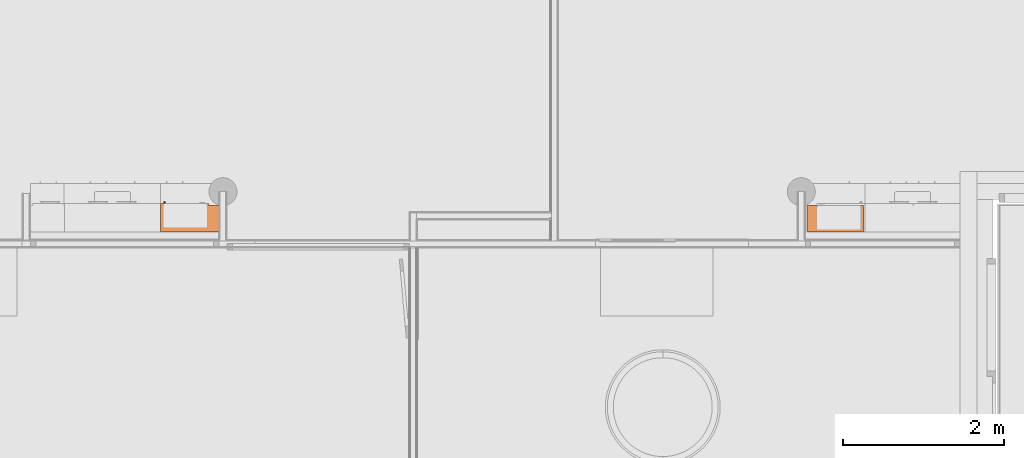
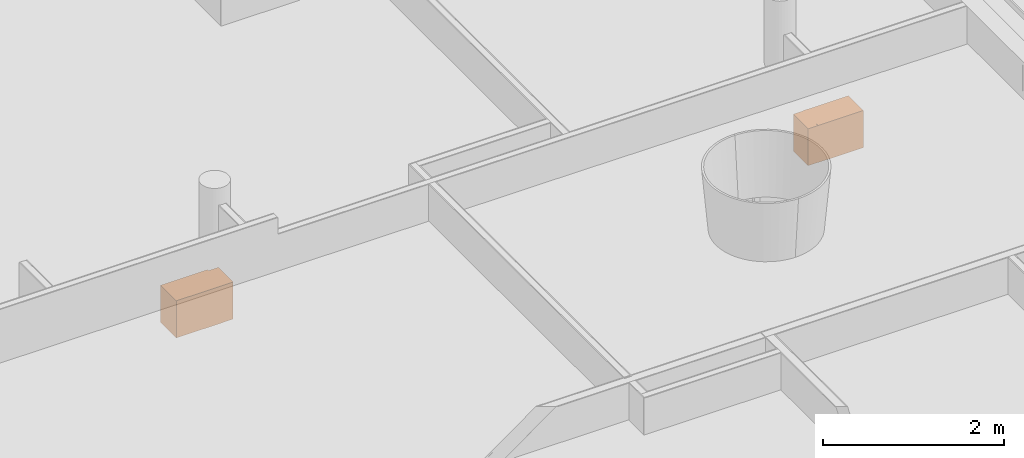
# One storey, part 166 of 167: 2 proxies.
"""IFC2X3 building model written with IfcOpenShell, lengths in millimetres."""

import ifcopenshell
import ifcopenshell.guid

model = None  # the IFC model being written
_history = None  # IfcOwnerHistory: only IFC2X3 demands one
_inside = {}  # id of a spatial element -> (the spatial element, [elements in it])
_under = {}  # id of a project, library or spatial element -> (it, [spatial elements below it])
_declared = {}  # id of a project -> (the project, [libraries it declares])
_typed = {}  # id of a type object -> (the type object, [elements of that type])
_made_of = {}  # id of a material, layer set ... -> (it, [elements and type objects made of it])


def new_model(schema):
    """Start an empty IFC model of exactly this schema.

    Asked for "IFC4X3", IfcOpenShell would pick the latest addendum, in which some entities
    have other attributes; the version numbers below select the first issue.
    IFC2X3 requires an IfcOwnerHistory on every rooted entity: one is made here for all.
    """
    global model, _history
    if schema == "IFC4X3":
        model = ifcopenshell.file(schema_version=(4, 3, 0, 0))
    else:
        model = ifcopenshell.file(schema=schema)
    _inside.clear()
    _under.clear()
    _declared.clear()
    _typed.clear()
    _made_of.clear()
    _history = None
    if model.schema == "IFC2X3":
        org = make("IfcOrganization", Name="unknown")
        user = make(
            "IfcPersonAndOrganization",
            ThePerson=make("IfcPerson", FamilyName="unknown"),
            TheOrganization=org,
        )
        app = make(
            "IfcApplication",
            ApplicationDeveloper=org,
            Version="unknown",
            ApplicationFullName="unknown",
            ApplicationIdentifier="unknown",
        )
        _history = make(
            "IfcOwnerHistory",
            OwningUser=user,
            OwningApplication=app,
            ChangeAction="ADDED",
            CreationDate=0,
        )
    return model


def make(cls, **values):
    """One entity of the class cls with the attributes given. An attribute that is None is left unset."""
    return model.create_entity(
        cls, **{name: value for name, value in values.items() if value is not None}
    )


def entity(cls, *values):
    """Any entity or typed value of the class cls, its attributes in the order of the schema. None: left unset."""
    e = model.create_entity(cls)
    for i, value in enumerate(values):
        if value is not None:
            e[i] = value
    return e


def rooted(cls, **values):
    """An entity with a GlobalId (a new one), such as an element, a storey or a relation."""
    return make(cls, GlobalId=ifcopenshell.guid.new(), OwnerHistory=_history, **values)


def si_unit(unit_type, name, prefix=None):
    """IfcSIUnit, for example si_unit("LENGTHUNIT", "METRE", prefix="MILLI")."""
    return make("IfcSIUnit", UnitType=unit_type, Prefix=prefix, Name=name)


def converted_unit(unit_type, name, factor, base, dimensions=None, offset=None):
    """IfcConversionBasedUnit, such as the inch: factor (a typed value) times the base unit."""
    return make(
        "IfcConversionBasedUnit"
        if offset is None
        else "IfcConversionBasedUnitWithOffset",
        ConversionOffset=offset,
        Dimensions=None
        if dimensions is None
        else entity("IfcDimensionalExponents", *dimensions),
        UnitType=unit_type,
        Name=name,
        ConversionFactor=make(
            "IfcMeasureWithUnit", ValueComponent=factor, UnitComponent=base
        ),
    )


def derived_unit(unit_type, elements):
    """IfcDerivedUnit: a product of units, each with its exponent."""
    return make(
        "IfcDerivedUnit",
        Elements=[
            make("IfcDerivedUnitElement", Unit=unit, Exponent=power)
            for unit, power in elements
        ],
        UnitType=unit_type,
    )


def money_unit(currency):
    """IfcMonetaryUnit."""
    return make("IfcMonetaryUnit", Currency=currency)


def assignment(units):
    """IfcUnitAssignment: the units of a project."""
    return None if units is None else make("IfcUnitAssignment", Units=units)


def point(xyz):
    """IfcCartesianPoint."""
    return None if xyz is None else make("IfcCartesianPoint", Coordinates=xyz)


def direction(xyz):
    """IfcDirection."""
    return None if xyz is None else make("IfcDirection", DirectionRatios=xyz)


def frame(location, z_axis=None, x_axis=None):
    """IfcAxis2Placement3D, a coordinate frame: its origin and axes. An axis left out is left unset."""
    return make(
        "IfcAxis2Placement3D",
        Location=point(location),
        Axis=direction(z_axis),
        RefDirection=direction(x_axis),
    )


def origin_with_axes():
    """The frame at (0, 0, 0) with the z axis (0, 0, 1) and the x axis (1, 0, 0) written out."""
    return frame((0.0, 0.0, 0.0), z_axis=(0.0, 0.0, 1.0), x_axis=(1.0, 0.0, 0.0))


def place(relative_to, where):
    """IfcLocalPlacement: puts the frame where relative to a parent placement (None: the world)."""
    return make(
        "IfcLocalPlacement", PlacementRelTo=relative_to, RelativePlacement=where
    )


def context(
    kind, dimensions, precision=None, world=None, true_north=None, identifier=None
):
    """IfcGeometricRepresentationContext, for example the 3D "Model" context."""
    return make(
        "IfcGeometricRepresentationContext",
        ContextIdentifier=identifier,
        ContextType=kind,
        CoordinateSpaceDimension=dimensions,
        Precision=precision,
        WorldCoordinateSystem=world,
        TrueNorth=true_north,
    )


def subcontext(parent, identifier, kind, view, scale=None):
    """IfcGeometricRepresentationSubContext, for example "Body" below "Model"."""
    return make(
        "IfcGeometricRepresentationSubContext",
        ContextIdentifier=identifier,
        ContextType=kind,
        ParentContext=parent,
        TargetScale=scale,
        TargetView=view,
    )


def project(units=None, contexts=None):
    """IfcProject with its units and contexts."""
    return rooted(
        "IfcProject",
        Name="project",
        RepresentationContexts=contexts,
        UnitsInContext=assignment(units),
    )


def spatial(cls, under=None, at=None, **own):
    """A site, building, storey or space (cls), placed at a placement, below another one or the project."""
    s = rooted(cls, ObjectPlacement=at, **own)
    if under is not None:
        _under.setdefault(under.id(), (under, []))[1].append(s)
    return s


def faces_of(points, faces, orient=None, outer=None):
    """IfcFace entities. A face is a list of loops; a loop is a list of indices into points, from 0.

    orient and outer hold one flag for each loop. By default every Orientation is true, the
    first loop of a face is its IfcFaceOuterBound and the others are IfcFaceBound.
    """
    made = []
    for i, loops in enumerate(faces):
        bounds = []
        for j, loop in enumerate(loops):
            is_outer = j == 0 if outer is None else outer[i][j]
            bounds.append(
                make(
                    "IfcFaceOuterBound" if is_outer else "IfcFaceBound",
                    Bound=make("IfcPolyLoop", Polygon=[points[k] for k in loop]),
                    Orientation=True if orient is None else orient[i][j],
                )
            )
        made.append(make("IfcFace", Bounds=bounds))
    return made


def faceted_brep(points, faces, orient=None, outer=None, voids=None):
    """IfcFacetedBrep: a solid bounded by flat faces; with voids (closed shells), ...WithVoids."""
    shared = [point(p) for p in points]
    hull = make("IfcClosedShell", CfsFaces=faces_of(shared, faces, orient, outer))
    if voids is None:
        return make("IfcFacetedBrep", Outer=hull)
    return make(
        "IfcFacetedBrepWithVoids",
        Outer=hull,
        Voids=[
            make(cls, CfsFaces=faces_of(shared, fs, o, b)) for cls, fs, o, b in voids
        ],
    )


def shape(context_of_items, identifier, shape_type, items):
    """IfcShapeRepresentation: the items that make up one representation, for example the "Body"."""
    return make(
        "IfcShapeRepresentation",
        ContextOfItems=context_of_items,
        RepresentationIdentifier=identifier,
        RepresentationType=shape_type,
        Items=items,
    )


def made_of(thing, what):
    """Note that an element or type object is made of a material, layer set ...; save() writes the relation."""
    if what is not None:
        _made_of.setdefault(what.id(), (what, []))[1].append(thing)
    return thing


def type_object(cls, material=None, **own):
    """A type object (cls), such as IfcWallType, which elements share."""
    return made_of(rooted(cls, **own), material)


def element(
    cls,
    number,
    at=None,
    inside=None,
    cuts=None,
    type_object=None,
    material=None,
    context=None,
    identifier="Body",
    shape_type=None,
    held_by="IfcProductDefinitionShape",
    body=None,
    shapes=None,
    **own,
):
    """One element of the class cls, such as IfcWall. Its Tag is "e" and its number.

    at: its placement. inside: the storey or other place that contains it. cuts: it is an
    opening in that element (IfcRelVoidsElement). A single representation is given by context,
    identifier, shape_type and body (its items); several are given by shapes. held_by: the class
    of the entity that holds the representations. save() writes the other relations.
    """
    e = rooted(cls, Tag="e%d" % number, ObjectPlacement=at, **own)
    if body is not None:
        shapes = [shape(context, identifier, shape_type, body)]
    if shapes is not None:
        e.Representation = make(held_by, Representations=shapes)
    if inside is not None:
        _inside.setdefault(inside.id(), (inside, []))[1].append(e)
    if cuts is not None:
        rooted(
            "IfcRelVoidsElement", RelatingBuildingElement=cuts, RelatedOpeningElement=e
        )
    if type_object is not None:
        _typed.setdefault(type_object.id(), (type_object, []))[1].append(e)
    return made_of(e, material)


def aggregate(whole, parts):
    """IfcRelAggregates: a whole, such as a stair, and the parts it consists of."""
    return rooted("IfcRelAggregates", RelatingObject=whole, RelatedObjects=parts)


def save(model, path):
    """Write the relations noted so far, then the file.

    IfcRelAggregates (storeys below a building ...), IfcRelContainedInSpatialStructure (elements
    in a storey), IfcRelDefinesByType, IfcRelAssociatesMaterial and IfcRelDeclares: one each for
    every whole, place, type object, material and project.
    """
    for whole, parts in _under.values():
        aggregate(whole, parts)
    for where, things in _inside.values():
        rooted(
            "IfcRelContainedInSpatialStructure",
            RelatedElements=things,
            RelatingStructure=where,
        )
    for kind, things in _typed.values():
        rooted("IfcRelDefinesByType", RelatedObjects=things, RelatingType=kind)
    for what, things in _made_of.values():
        rooted("IfcRelAssociatesMaterial", RelatedObjects=things, RelatingMaterial=what)
    for by, libraries in _declared.values():
        rooted("IfcRelDeclares", RelatingContext=by, RelatedDefinitions=libraries)
    model.write(path)


model = new_model("IFC2X3")

# Units and contexts
model_context = context("Model", 3, precision=0.01, world=origin_with_axes(), true_north=direction((0.0, 1.0)))
plan_context = context("Plan", 3, precision=0.01, world=origin_with_axes(), true_north=direction((0.0, 1.0)))
body_context = subcontext(model_context, "Body", "Model", "MODEL_VIEW")
ifc_project = project(units=[si_unit("LENGTHUNIT", "METRE", prefix="MILLI"), si_unit("AREAUNIT", "SQUARE_METRE"), si_unit("VOLUMEUNIT", "CUBIC_METRE"), converted_unit("PLANEANGLEUNIT", "DEGREE", entity("IfcPlaneAngleMeasure", 0.0174532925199), si_unit("PLANEANGLEUNIT", "RADIAN"), dimensions=[0, 0, 0, 0, 0, 0, 0]), si_unit("SOLIDANGLEUNIT", "STERADIAN"), money_unit("EUR"), converted_unit("TIMEUNIT", "Year", entity("IfcTimeMeasure", 31556926.0), si_unit("TIMEUNIT", "SECOND"), dimensions=[0, 0, 1, 0, 0, 0, 0]), si_unit("MASSUNIT", "GRAM", prefix="KILO"), si_unit("THERMODYNAMICTEMPERATUREUNIT", "DEGREE_CELSIUS"), si_unit("LUMINOUSINTENSITYUNIT", "LUMEN"), si_unit("ENERGYUNIT", "JOULE", prefix="MEGA"), derived_unit("THERMALCONDUCTANCEUNIT", [(si_unit("POWERUNIT", "WATT"), 1), (si_unit("LENGTHUNIT", "METRE"), -1), (si_unit("THERMODYNAMICTEMPERATUREUNIT", "KELVIN"), -1)]), derived_unit("SPECIFICHEATCAPACITYUNIT", [(si_unit("ENERGYUNIT", "JOULE"), 1), (si_unit("MASSUNIT", "GRAM", prefix="KILO"), -1), (si_unit("THERMODYNAMICTEMPERATUREUNIT", "KELVIN"), -1)]), derived_unit("MASSDENSITYUNIT", [(si_unit("MASSUNIT", "GRAM", prefix="KILO"), 1), (si_unit("VOLUMEUNIT", "CUBIC_METRE"), -1)])], contexts=[model_context, plan_context])

# Site, building, storey
site_placement = place(None, origin_with_axes())
site = spatial("IfcSite", under=ifc_project, at=site_placement, Name="Site", CompositionType="ELEMENT")
building_placement = place(site_placement, origin_with_axes())
building = spatial("IfcBuilding", under=site, at=building_placement, Name="Naam gebouw", CompositionType="ELEMENT")
storey_placement = place(building_placement, origin_with_axes())
storey = spatial("IfcBuildingStorey", under=building, at=storey_placement, Name="Begane grond", CompositionType="ELEMENT", Elevation=0.0)

# Proxies
building_element_proxy_type = type_object("IfcBuildingElementProxyType", Name="Kast wand 1D 24", PredefinedType="NOTDEFINED")
proxy_1_placement = place(storey_placement, frame((36069.9999937, 42199.9999946, 200.07308756), z_axis=(0.0, 0.0, 1.0), x_axis=(-1.0, 0.0, 0.0)))
element("IfcBuildingElementProxy", 1, at=proxy_1_placement, inside=storey, type_object=building_element_proxy_type, Name="__Object-x", context=body_context, shape_type="Brep", body=[
    faceted_brep([(-125.0, 20.0, 1980.0), (-125.0, 20.0, 2000.0), (-145.0, 20.0, 2000.0), (-145.0, 20.0, 1980.0), (-125.0, 350.00000605, 1980.0), (-125.0, 350.00000605, 2000.0), (-145.0, 350.00000605, 2000.0), (-683.344139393, 350.00000605, 2000.0), (-703.344139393, 350.00000605, 2000.0), (-703.344139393, 20.0, 2000.0), (-683.344139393, 20.0, 2000.0), (-683.344139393, 20.0, 1980.0), (-703.344139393, 20.0, 1980.0), (-703.344139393, 350.00000605, 1980.0), (-683.344139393, 350.00000605, 1980.0), (-145.0, 350.00000605, 1980.0)], [[[0, 1, 2, 3]], [[4, 5, 1, 0]], [[1, 5, 6, 7, 8, 9, 10, 2]], [[3, 2, 10, 11]], [[0, 3, 11, 12, 13, 14, 15, 4]], [[15, 6, 5, 4]], [[14, 7, 6, 15]], [[13, 8, 7, 14]], [[12, 9, 8, 13]], [[11, 10, 9, 12]]]),
    faceted_brep([(-125.0, 20.0, 1500.0), (-125.0, 20.0, 1520.0), (-145.0, 20.0, 1520.0), (-145.0, 20.0, 1500.0), (-125.0, 350.00000605, 1500.0), (-125.0, 350.00000605, 1520.0), (-145.0, 350.00000605, 1520.0), (-683.344139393, 350.00000605, 1520.0), (-703.344139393, 350.00000605, 1520.0), (-703.344139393, 20.0, 1520.0), (-683.344139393, 20.0, 1520.0), (-683.344139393, 20.0, 1500.0), (-703.344139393, 20.0, 1500.0), (-703.344139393, 350.00000605, 1500.0), (-683.344139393, 350.00000605, 1500.0), (-145.0, 350.00000605, 1500.0)], [[[0, 1, 2, 3]], [[4, 5, 1, 0]], [[1, 5, 6, 7, 8, 9, 10, 2]], [[3, 2, 10, 11]], [[0, 3, 11, 12, 13, 14, 15, 4]], [[15, 6, 5, 4]], [[14, 7, 6, 15]], [[13, 8, 7, 14]], [[12, 9, 8, 13]], [[11, 10, 9, 12]]]),
    faceted_brep([(-125.0, 20.0, 1520.0), (-125.0, 20.0, 1980.0), (-145.0, 20.0, 1980.0), (-145.0, 20.0, 1520.0), (-125.0, 350.00000605, 1520.0), (-125.0, 350.00000605, 1980.0), (-703.344139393, 350.00000605, 1980.0), (-703.344139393, 20.0, 1980.0), (-683.344139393, 20.0, 1980.0), (-683.344139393, 330.00000605, 1980.0), (-145.0, 330.00000605, 1980.0), (-145.0, 330.00000605, 1520.0), (-683.344139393, 330.00000605, 1520.0), (-683.344139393, 20.0, 1520.0), (-703.344139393, 20.0, 1520.0), (-703.344139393, 350.00000605, 1520.0)], [[[0, 1, 2, 3]], [[4, 5, 1, 0]], [[1, 5, 6, 7, 8, 9, 10, 2]], [[3, 2, 10, 11]], [[0, 3, 11, 12, 13, 14, 15, 4]], [[15, 6, 5, 4]], [[14, 7, 6, 15]], [[13, 8, 7, 14]], [[12, 9, 8, 13]], [[11, 10, 9, 12]]]),
    faceted_brep([(-125.0, 348.50000605, 1501.5), (0.0, 348.50000605, 1501.5), (0.0, 21.5, 1501.5), (-125.0, 21.5, 1501.5), (-125.0, 348.50000605, 1998.5), (0.0, 348.50000605, 1998.5), (0.0, 21.5, 1998.5), (-125.0, 21.5, 1998.5)], [[[0, 1, 2, 3]], [[4, 5, 1, 0]], [[1, 5, 6, 2]], [[3, 2, 6, 7]], [[0, 3, 7, 4]], [[7, 6, 5, 4]]]),
])
proxy_2_placement = place(storey_placement, frame((28748.3441389, 42199.9999886, 700.07308756), z_axis=(0.0, 0.0, 1.0), x_axis=(-1.0, 0.0, 0.0)))
element("IfcBuildingElementProxy", 2, at=proxy_2_placement, inside=storey, type_object=building_element_proxy_type, Name="__Object-x", context=body_context, shape_type="Brep", body=[
    faceted_brep([(125.0, 20.0, 1980.0), (145.0, 20.0, 1980.0), (145.0, 20.0, 2000.0), (125.0, 20.0, 2000.0), (125.0, 350.0, 1980.0), (145.0, 350.0, 1980.0), (705.0, 350.0, 1980.0), (725.0, 350.0, 1980.0), (725.0, 20.0, 1980.0), (705.0, 20.0, 1980.0), (705.0, 20.0, 2000.0), (725.0, 20.0, 2000.0), (725.0, 350.0, 2000.0), (705.0, 350.0, 2000.0), (145.0, 350.0, 2000.0), (125.0, 350.0, 2000.0)], [[[0, 1, 2, 3]], [[0, 4, 5, 6, 7, 8, 9, 1]], [[1, 9, 10, 2]], [[3, 2, 10, 11, 12, 13, 14, 15]], [[4, 0, 3, 15]], [[5, 4, 15, 14]], [[6, 5, 14, 13]], [[7, 6, 13, 12]], [[8, 7, 12, 11]], [[9, 8, 11, 10]]]),
    faceted_brep([(125.0, 20.0, 1500.0), (145.0, 20.0, 1500.0), (145.0, 20.0, 1520.0), (125.0, 20.0, 1520.0), (125.0, 350.0, 1500.0), (145.0, 350.0, 1500.0), (705.0, 350.0, 1500.0), (725.0, 350.0, 1500.0), (725.0, 20.0, 1500.0), (705.0, 20.0, 1500.0), (705.0, 20.0, 1520.0), (725.0, 20.0, 1520.0), (725.0, 350.0, 1520.0), (705.0, 350.0, 1520.0), (145.0, 350.0, 1520.0), (125.0, 350.0, 1520.0)], [[[0, 1, 2, 3]], [[0, 4, 5, 6, 7, 8, 9, 1]], [[1, 9, 10, 2]], [[3, 2, 10, 11, 12, 13, 14, 15]], [[4, 0, 3, 15]], [[5, 4, 15, 14]], [[6, 5, 14, 13]], [[7, 6, 13, 12]], [[8, 7, 12, 11]], [[9, 8, 11, 10]]]),
    faceted_brep([(125.0, 20.0, 1520.0), (145.0, 20.0, 1520.0), (145.0, 20.0, 1980.0), (125.0, 20.0, 1980.0), (125.0, 350.0, 1520.0), (725.0, 350.0, 1520.0), (725.0, 20.0, 1520.0), (705.0, 20.0, 1520.0), (705.0, 330.0, 1520.0), (145.0, 330.0, 1520.0), (145.0, 330.0, 1980.0), (705.0, 330.0, 1980.0), (705.0, 20.0, 1980.0), (725.0, 20.0, 1980.0), (725.0, 350.0, 1980.0), (125.0, 350.0, 1980.0)], [[[0, 1, 2, 3]], [[0, 4, 5, 6, 7, 8, 9, 1]], [[1, 9, 10, 2]], [[3, 2, 10, 11, 12, 13, 14, 15]], [[4, 0, 3, 15]], [[5, 4, 15, 14]], [[6, 5, 14, 13]], [[7, 6, 13, 12]], [[8, 7, 12, 11]], [[9, 8, 11, 10]]]),
    faceted_brep([(126.5, 20.0, 1501.5), (723.5, 20.0, 1501.5), (723.5, 0.0, 1501.5), (126.5, 0.0, 1501.5), (126.5, 20.0, 1998.5), (723.5, 20.0, 1998.5), (723.5, 0.0, 1998.5), (126.5, 0.0, 1998.5)], [[[0, 1, 2, 3]], [[0, 4, 5, 1]], [[1, 5, 6, 2]], [[3, 2, 6, 7]], [[4, 0, 3, 7]], [[5, 4, 7, 6]]]),
    faceted_brep([(685.091109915, 0.0, 1548.39417146), (683.892304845, 0.0, 1545.5), (681.985281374, 0.0, 1543.01471863), (679.5, 0.0, 1541.10769515), (676.605828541, 0.0, 1539.90889008), (673.5, 0.0, 1539.5), (670.394171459, 0.0, 1539.90889008), (667.5, 0.0, 1541.10769515), (665.014718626, 0.0, 1543.01471863), (663.107695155, 0.0, 1545.5), (661.908890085, 0.0, 1548.39417146), (661.5, 0.0, 1551.5), (661.908890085, 0.0, 1554.60582854), (663.107695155, 0.0, 1557.5), (665.014718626, 0.0, 1559.98528137), (667.5, 0.0, 1561.89230485), (670.394171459, 0.0, 1563.09110992), (673.5, 0.0, 1563.5), (676.605828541, 0.0, 1563.09110992), (679.5, 0.0, 1561.89230485), (681.985281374, 0.0, 1559.98528137), (683.892304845, 0.0, 1557.5), (685.091109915, 0.0, 1554.60582854), (685.5, 0.0, 1551.5), (685.091109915, -25.0, 1548.39417146), (683.892304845, -25.0, 1545.5), (681.985281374, -25.0, 1543.01471863), (679.5, -25.0, 1541.10769515), (676.605828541, -25.0, 1539.90889008), (673.5, -25.0, 1539.5), (670.394171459, -25.0, 1539.90889008), (667.5, -25.0, 1541.10769515), (665.014718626, -25.0, 1543.01471863), (663.107695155, -25.0, 1545.5), (661.908890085, -25.0, 1548.39417146), (661.5, -25.0, 1551.5), (661.908890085, -25.0, 1554.60582854), (663.107695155, -25.0, 1557.5), (665.014718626, -25.0, 1559.98528137), (667.5, -25.0, 1561.89230485), (670.394171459, -25.0, 1563.09110992), (673.5, -25.0, 1563.5), (676.605828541, -25.0, 1563.09110992), (679.5, -25.0, 1561.89230485), (681.985281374, -25.0, 1559.98528137), (683.892304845, -25.0, 1557.5), (685.091109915, -25.0, 1554.60582854), (685.5, -25.0, 1551.5)], [[[0, 1, 2, 3, 4, 5, 6, 7, 8, 9, 10, 11, 12, 13, 14, 15, 16, 17, 18, 19, 20, 21, 22, 23]], [[1, 0, 24, 25]], [[2, 1, 25, 26]], [[3, 2, 26, 27]], [[4, 3, 27, 28]], [[5, 4, 28, 29]], [[6, 5, 29, 30]], [[7, 6, 30, 31]], [[8, 7, 31, 32]], [[9, 8, 32, 33]], [[10, 9, 33, 34]], [[11, 10, 34, 35]], [[12, 11, 35, 36]], [[13, 12, 36, 37]], [[14, 13, 37, 38]], [[15, 14, 38, 39]], [[16, 15, 39, 40]], [[17, 16, 40, 41]], [[18, 17, 41, 42]], [[19, 18, 42, 43]], [[20, 19, 43, 44]], [[21, 20, 44, 45]], [[22, 21, 45, 46]], [[23, 22, 46, 47]], [[0, 23, 47, 24]], [[24, 47, 46, 45, 44, 43, 42, 41, 40, 39, 38, 37, 36, 35, 34, 33, 32, 31, 30, 29, 28, 27, 26, 25]]]),
    faceted_brep([(125.0, 348.5, 1501.5), (125.0, 21.5, 1501.5), (0.0, 21.5, 1501.5), (0.0, 348.5, 1501.5), (125.0, 348.5, 1998.5), (125.0, 21.5, 1998.5), (0.0, 21.5, 1998.5), (0.0, 348.5, 1998.5)], [[[0, 1, 2, 3]], [[0, 4, 5, 1]], [[1, 5, 6, 2]], [[3, 2, 6, 7]], [[4, 0, 3, 7]], [[5, 4, 7, 6]]]),
])

save(model, "model.ifc")
